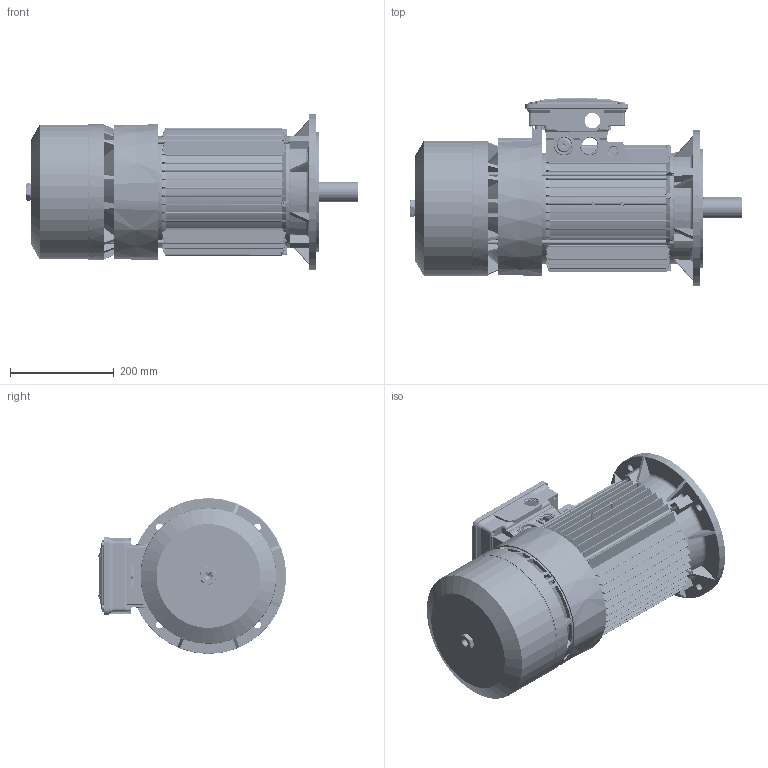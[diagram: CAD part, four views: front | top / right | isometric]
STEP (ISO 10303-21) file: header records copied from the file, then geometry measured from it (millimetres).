
FILE_DESCRIPTION (( 'STEP AP214' ), '1' );
FILE_NAME ('BA 132 M B5.STEP', '2017-12-06T07:48:11', ( '' ), ( '' ), 'SwSTEP 2.0', 'SolidWorks 2017', '' );
FILE_SCHEMA (( 'AUTOMOTIVE_DESIGN' ));
Length unit declared in the file: millimetre
Products named in the file (20): Cuffia serie BA 132; Chiavetta 132; Convogliatore con Pista d''attrito P2 BA 132; Scatola BA 132 - Completa; Vite M5x20; Scudo Lato Freno P1 BA 132; Coperchio Scatola Morsettiera BA 132 - DGBR0002; Albero BA 132 M; Carcassa 132 M B5; Guarnizione Coperchio Morsettiera Doppia Scatola BA 132 - DGBS0102; Piastra stringi Pipetta BA 132 - DGBA0210 bis; BA 132 M B5; Guarnizione Basetta BA 132 - DGBU0202; Vite Autofilettante Testa Bombata 4,8x9,5; Pipetta passafilo; Scatola per Morsettiera BA 132 - DGBQ0102; O-ring freno BA 132; Tirante BA 132 M - DGCQ0003; Scudo a flangia B5 Fi 300 BA 132 - DGAA0195; Vite a Testa Esagona 20 MB gr. 132-200 - DGAS0094
Assembly tree (26 placements, depth 3):
  BA 132 M B5
    Carcassa 132 M B5
    Albero BA 132 M
    Scudo Lato Freno P1 BA 132
    Convogliatore con Pista d''attrito P2 BA 132
    Cuffia serie BA 132
    Vite a Testa Esagona 20 MB gr. 132-200 - DGAS0094
    Scudo a flangia B5 Fi 300 BA 132 - DGAA0195
    Tirante BA 132 M - DGCQ0003  x4
    O-ring freno BA 132
    Scatola BA 132 - Completa
      Scatola per Morsettiera BA 132 - DGBQ0102
      Pipetta passafilo  x2
      Vite Autofilettante Testa Bombata 4,8x9,5
      Guarnizione Basetta BA 132 - DGBU0202
      Piastra stringi Pipetta BA 132 - DGBA0210 bis
      Guarnizione Coperchio Morsettiera Doppia Scatola BA 132 - DGBS0102
      Coperchio Scatola Morsettiera BA 132 - DGBR0002
      Vite M5x20  x4
    Chiavetta 132
Bounding box: 639 x 362.89 x 300 mm (x, y, z)
Volume: 5840438.5 mm3; surface area: 2222287.6 mm2
Topology: 25 solids, 25 shells, 3880 faces, 10552 edges, 6699 vertices
Faces by surface type: cylinder 1662, plane 1068, cone 542, torus 402, bspline 194, sphere 12
Entity records: 128347 total; most frequent: CARTESIAN_POINT 49340, ORIENTED_EDGE 16944, DIRECTION 14982, EDGE_CURVE 8472, AXIS2_PLACEMENT_3D 5775, VERTEX_POINT 5400, VECTOR 3432, LINE 3432
